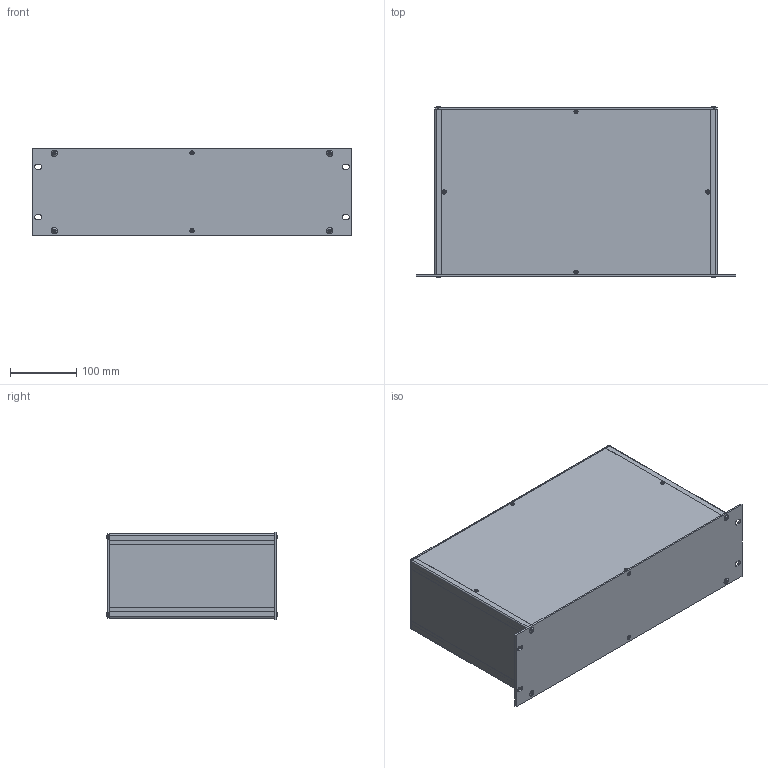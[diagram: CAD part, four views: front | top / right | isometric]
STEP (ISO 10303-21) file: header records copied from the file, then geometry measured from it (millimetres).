
FILE_DESCRIPTION(/* description */ (''),/* implementation_level */ '2;1');
FILE_NAME(/* name */ '//diskstation/Kunden/Gehäuse/Gehäuse/3HE/step/Zoll 3HE Rack Gehäuse Tiefe-250.step',/* time_stamp */ '2022-02-17T15:44:30+01:00',/* author */ (''),/* organization */ (''),/* preprocessor_version */ 'ST-DEVELOPER v18.1',/* originating_system */ 'Autodesk Translation Framework v10.10.0.1391',/* authorisation */ '');
FILE_SCHEMA (('AUTOMOTIVE_DESIGN { 1 0 10303 214 3 1 1 }'));
Length unit declared in the file: millimetre
Products named in the file (28): 3HE Gehäuse mit parametern; Gehäuse; Gehäuseprofil 1 unten links; Gehäuseprofil 2 oben rechts; Gehäuseprofil 1 unten rechts; Gehäuseprofil 2 oben links; Rückplatte; Deckel; Seitenteil links; Seitenteil rechts; Bodenplatte; Montageklotz Front/Deckel; Montageklotz Front/Boden; Montageklotz Rück/Deckel; Montageklotz Rück/Boden; Gewindestreifen; Frontplatte; Schrauben M5; Schraube Front; Schraube Front (1); Schraube Front (2); Schraube Front (3); Schraube Rück (1); Schraube Rück; Schraube Rück (2); Schraube Rück (3); Schrauben M3; HI_Senkschraube DIN 965 A v2 M3x5 24677.030.005(High)
Assembly tree (37 placements, depth 3):
  3HE Gehäuse mit parametern
    Gehäuse
      Gehäuseprofil 1 unten links
      Gehäuseprofil 2 oben rechts
      Gehäuseprofil 1 unten rechts
      Gehäuseprofil 2 oben links
      Rückplatte
      Deckel
      Seitenteil links
      Seitenteil rechts
      Bodenplatte
      Montageklotz Front/Deckel
      Montageklotz Front/Boden
      Montageklotz Rück/Deckel
      Montageklotz Rück/Boden
      Gewindestreifen  x2
    Frontplatte
    Schrauben M5
      Schraube Front
      Schraube Front (1)
      Schraube Front (2)
      Schraube Front (3)
      Schraube Rück (1)
      Schraube Rück
      Schraube Rück (2)
      Schraube Rück (3)
    Schrauben M3
      HI_Senkschraube DIN 965 A v2 M3x5 24677.030.005(High)  x10
Bounding box: 483 x 258.2 x 132.5 mm (x, y, z)
Volume: 988926.7 mm3; surface area: 871097.7 mm2
Topology: 34 solids, 34 shells, 854 faces, 2076 edges, 1290 vertices
Faces by surface type: plane 342, cylinder 332, cone 164, torus 8, bspline 8
Full cylindrical faces by diameter (mm): 2.529 x90, 3 x10, 3.2 x10, 4.234 x40, 5 x8, 5.2 x4, 5.3 x8, 5.6 x10, 9.5 x8
Entity records: 16845 total; most frequent: CARTESIAN_POINT 3078, DIRECTION 2820, ORIENTED_EDGE 2490, EDGE_CURVE 1245, AXIS2_PLACEMENT_3D 1060, VERTEX_POINT 778, EDGE_LOOP 731, LINE 700
